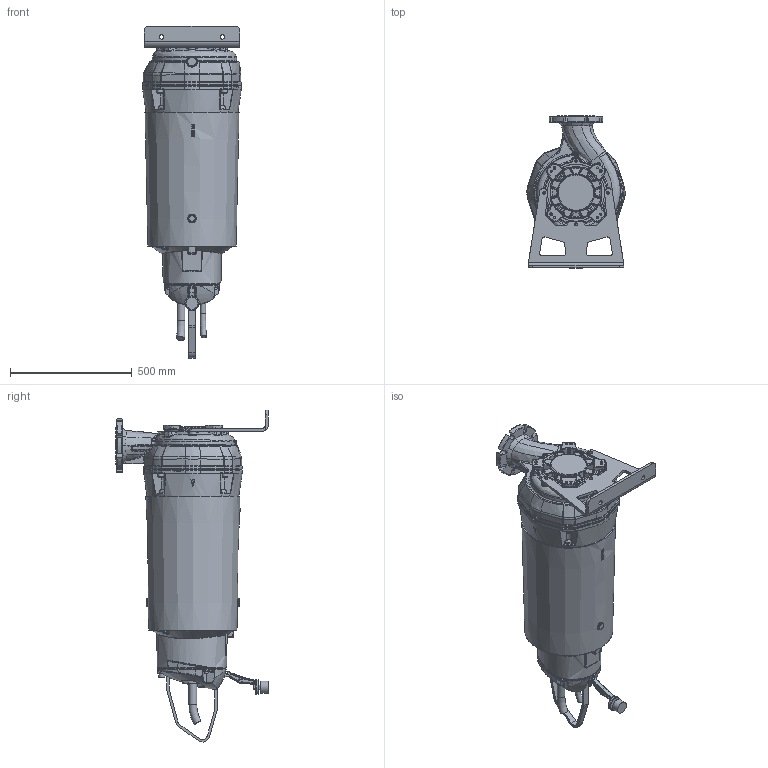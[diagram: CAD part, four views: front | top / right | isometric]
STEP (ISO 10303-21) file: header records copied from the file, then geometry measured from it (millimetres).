
FILE_DESCRIPTION (( 'STEP AP203' ), '1' );
FILE_NAME ('XFP107G-CB2_PE3B_Dry_Horizontal-.step', '2023-05-02T13:51:05', ( '' ), ( '' ), 'SwSTEP 2.0', 'SolidWorks 2017', '' );
FILE_SCHEMA (( 'CONFIG_CONTROL_DESIGN' ));
Products named in the file (2): XFP107G-CB2_PE3B_Dry_Horizontal-
Bounding box: 405 x 627 x 1366.2 mm (x, y, z)
Volume: 107346380.8 mm3; surface area: 1991216.1 mm2
Topology: 19 solids, 38 shells, 3424 faces, 8045 edges, 4562 vertices
Faces by surface type: bspline 1447, cylinder 932, plane 710, torus 174, cone 133, sphere 28
Full cylindrical faces by diameter (mm): 6.8 x3, 8 x9, 8.5 x12, 9 x5, 10 x10, 10.3 x4, 11 x9, 12 x4, 12.5 x4, 13 x13, 14 x4, 15 x3, 16 x9, 17 x3, 18 x16, 22 x1, 24 x6, 26 x5, 32 x1, 34 x1, 38 x1, 40 x1, 48 x1, 50 x2, 60 x1, 153 x1, 235 x1
Entity records: 177585 total; most frequent: CARTESIAN_POINT 113596, ORIENTED_EDGE 14924, DIRECTION 10586, EDGE_CURVE 7462, VERTEX_POINT 4445, AXIS2_PLACEMENT_3D 4185, EDGE_LOOP 3819, FACE_OUTER_BOUND 3609
